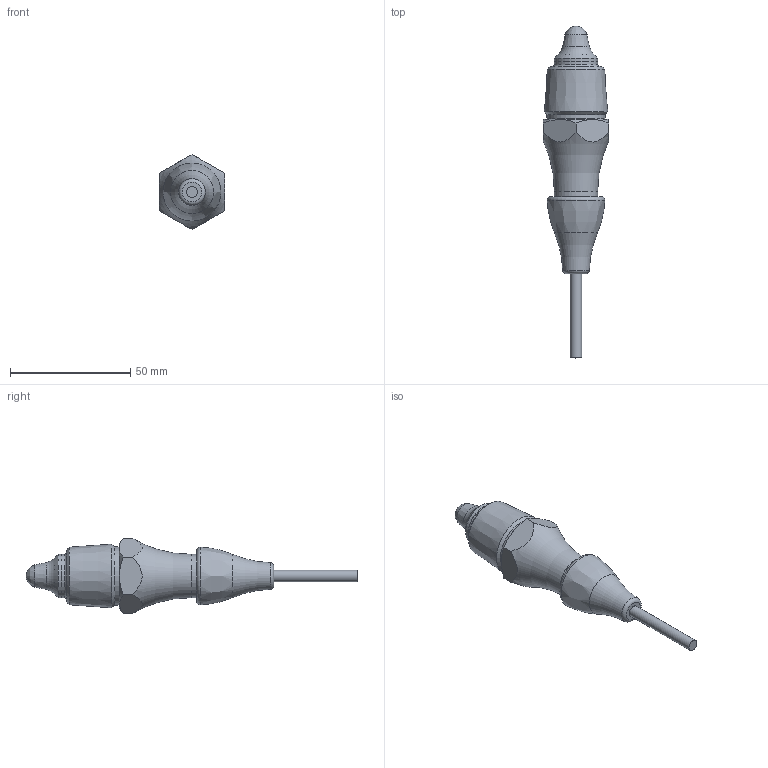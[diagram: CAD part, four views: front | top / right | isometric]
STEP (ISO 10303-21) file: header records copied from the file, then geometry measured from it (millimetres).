
FILE_DESCRIPTION( ( 'Unknown' ), '1' );
FILE_NAME( 'F:/U_Proces/Dokumentation/7000 3D Step filer/7000-/7000029/LBFS 022.stp', 'Unknown', ( 'Unknown' ), ( 'Unknown' ), 'PSStep 13.0', 'Unknown', ' ' );
FILE_SCHEMA( ( 'AUTOMOTIVE_DESIGN { 1 0 10303 214 1 1 1 1 }' ) );
Length unit declared in the file: millimetre
Products named in the file (1): 2103100
Bounding box: 27 x 137.81 x 31.18 mm (x, y, z)
Surface area: 13375.7 mm2 (no closed solid volume)
Topology: 0 solids, 169 shells, 169 faces, 921 edges, 883 vertices
Faces by surface type: plane 112, cylinder 32, torus 11, cone 10, bspline 2, sphere 2
Full cylindrical faces by diameter (mm): 2 x1, 4.7 x1, 8 x1, 8.3 x1, 13 x2, 15 x1, 15.15 x1, 15.5 x1, 16.5 x1, 18 x3, 24.12 x1
Entity records: 10580 total; most frequent: CARTESIAN_POINT 2570, DIRECTION 1406, ORIENTED_EDGE 862, EDGE_CURVE 862, VERTEX_POINT 862, LINE 590, VECTOR 590, AXIS2_PLACEMENT_3D 408
